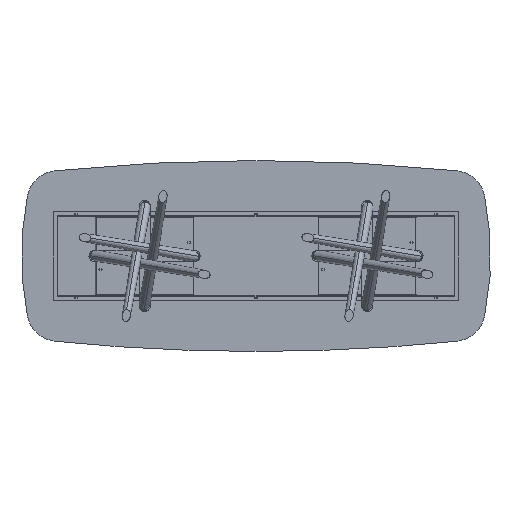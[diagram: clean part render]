
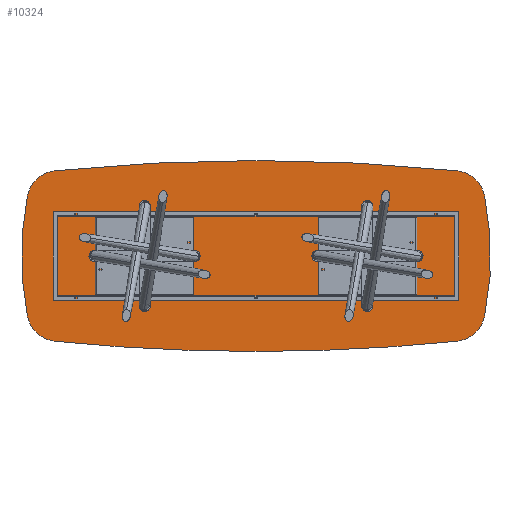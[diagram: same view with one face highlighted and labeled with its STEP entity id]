
A CAD part, front view. The second image highlights one B-rep face of the part: STEP entity #10324.
In plain terms, the highlighted planar face has unit normal (0, -1, 0).
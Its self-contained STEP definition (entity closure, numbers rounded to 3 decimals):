
#43 = DIRECTION ( 'NONE',  ( 0., 0., 1. ) ) ;
#345 = EDGE_CURVE ( 'NONE', #3408, #1984, #1867, .T. ) ;
#350 = AXIS2_PLACEMENT_3D ( 'NONE', #11640, #3685, #3812 ) ;
#446 = VERTEX_POINT ( 'NONE', #8688 ) ;
#484 = CARTESIAN_POINT ( 'NONE',  ( -212.5, 0., 5950. ) ) ;
#705 = ORIENTED_EDGE ( 'NONE', *, *, #7558, .T. ) ;
#808 = CARTESIAN_POINT ( 'NONE',  ( 1241.22, 0., -337.213 ) ) ;
#861 = CIRCLE ( 'NONE', #12214, 1900. ) ;
#1256 = DIRECTION ( 'NONE',  ( 0., 0., 1. ) ) ;
#1267 = DIRECTION ( 'NONE',  ( 0., 0., 1. ) ) ;
#1269 = AXIS2_PLACEMENT_3D ( 'NONE', #8380, #6193, #4230 ) ;
#1867 = CIRCLE ( 'NONE', #8465, 1900. ) ;
#1965 = AXIS2_PLACEMENT_3D ( 'NONE', #4172, #10896, #1267 ) ;
#1984 = VERTEX_POINT ( 'NONE', #4595 ) ;
#2293 = EDGE_CURVE ( 'NONE', #8734, #9448, #861, .T. ) ;
#2354 = AXIS2_PLACEMENT_3D ( 'NONE', #808, #5590, #4804 ) ;
#2461 = EDGE_CURVE ( 'NONE', #5939, #4157, #4368, .T. ) ;
#2638 = DIRECTION ( 'NONE',  ( 0., 0., 1. ) ) ;
#3121 = CARTESIAN_POINT ( 'NONE',  ( 1437.245, 0., 376.885 ) ) ;
#3147 = AXIS2_PLACEMENT_3D ( 'NONE', #12623, #9825, #7001 ) ;
#3270 = DIRECTION ( 'NONE',  ( 0., 1., 0. ) ) ;
#3408 = VERTEX_POINT ( 'NONE', #3121 ) ;
#3561 = EDGE_CURVE ( 'NONE', #8734, #7303, #5004, .T. ) ;
#3663 = CARTESIAN_POINT ( 'NONE',  ( 0., 0., 11900. ) ) ;
#3685 = DIRECTION ( 'NONE',  ( 0., -1., 0. ) ) ;
#3812 = DIRECTION ( 'NONE',  ( 0., 0., 1. ) ) ;
#3857 = CARTESIAN_POINT ( 'NONE',  ( -1241.22, 0., 337.213 ) ) ;
#3966 = CARTESIAN_POINT ( 'NONE',  ( -1437.245, 0., -376.885 ) ) ;
#4157 = VERTEX_POINT ( 'NONE', #12120 ) ;
#4172 = CARTESIAN_POINT ( 'NONE',  ( 0., 0., 11900. ) ) ;
#4230 = DIRECTION ( 'NONE',  ( 0., 0., 1. ) ) ;
#4368 = CIRCLE ( 'NONE', #1269, 12500. ) ;
#4428 = PLANE ( 'NONE',  #8956 ) ;
#4452 = CIRCLE ( 'NONE', #6940, 200. ) ;
#4498 = EDGE_CURVE ( 'NONE', #7515, #446, #8994, .T. ) ;
#4595 = CARTESIAN_POINT ( 'NONE',  ( 1437.245, 0., -376.885 ) ) ;
#4804 = DIRECTION ( 'NONE',  ( 0., 0., 1. ) ) ;
#5004 = CIRCLE ( 'NONE', #3147, 200. ) ;
#5015 = ORIENTED_EDGE ( 'NONE', *, *, #2293, .F. ) ;
#5139 = EDGE_CURVE ( 'NONE', #7515, #1984, #7941, .T. ) ;
#5388 = ORIENTED_EDGE ( 'NONE', *, *, #5139, .T. ) ;
#5590 = DIRECTION ( 'NONE',  ( 0., -1., 0. ) ) ;
#5719 = ORIENTED_EDGE ( 'NONE', *, *, #12177, .F. ) ;
#5939 = VERTEX_POINT ( 'NONE', #8528 ) ;
#6193 = DIRECTION ( 'NONE',  ( 0., 1., 0. ) ) ;
#6251 = FACE_OUTER_BOUND ( 'NONE', #11320, .T. ) ;
#6373 = ORIENTED_EDGE ( 'NONE', *, *, #4498, .F. ) ;
#6767 = AXIS2_PLACEMENT_3D ( 'NONE', #3663, #9412, #11291 ) ;
#6940 = AXIS2_PLACEMENT_3D ( 'NONE', #3857, #10048, #43 ) ;
#7001 = DIRECTION ( 'NONE',  ( 0., 0., 1. ) ) ;
#7208 = DIRECTION ( 'NONE',  ( 0., 1., 0. ) ) ;
#7303 = VERTEX_POINT ( 'NONE', #8879 ) ;
#7515 = VERTEX_POINT ( 'NONE', #11436 ) ;
#7558 = EDGE_CURVE ( 'NONE', #3408, #4157, #9629, .T. ) ;
#7941 = CIRCLE ( 'NONE', #2354, 200. ) ;
#8380 = CARTESIAN_POINT ( 'NONE',  ( 0., 0., -11900. ) ) ;
#8465 = AXIS2_PLACEMENT_3D ( 'NONE', #10336, #7208, #12365 ) ;
#8528 = CARTESIAN_POINT ( 'NONE',  ( -1261.402, 0., 536.192 ) ) ;
#8688 = CARTESIAN_POINT ( 'NONE',  ( 0., 0., -600. ) ) ;
#8734 = VERTEX_POINT ( 'NONE', #3966 ) ;
#8879 = CARTESIAN_POINT ( 'NONE',  ( -1261.402, 0., -536.192 ) ) ;
#8956 = AXIS2_PLACEMENT_3D ( 'NONE', #484, #3270, #1256 ) ;
#8994 = CIRCLE ( 'NONE', #1965, 12500. ) ;
#8995 = ORIENTED_EDGE ( 'NONE', *, *, #3561, .T. ) ;
#9412 = DIRECTION ( 'NONE',  ( 0., 1., 0. ) ) ;
#9448 = VERTEX_POINT ( 'NONE', #9809 ) ;
#9629 = CIRCLE ( 'NONE', #350, 200. ) ;
#9809 = CARTESIAN_POINT ( 'NONE',  ( -1437.245, 0., 376.885 ) ) ;
#9825 = DIRECTION ( 'NONE',  ( 0., -1., 0. ) ) ;
#10048 = DIRECTION ( 'NONE',  ( 0., -1., 0. ) ) ;
#10324 = ADVANCED_FACE ( 'NONE', ( #6251 ), #4428, .F. ) ;
#10336 = CARTESIAN_POINT ( 'NONE',  ( -425., 0., 0. ) ) ;
#10578 = CARTESIAN_POINT ( 'NONE',  ( 425., 0., 0. ) ) ;
#10896 = DIRECTION ( 'NONE',  ( 0., 1., 0. ) ) ;
#11104 = ORIENTED_EDGE ( 'NONE', *, *, #11255, .T. ) ;
#11255 = EDGE_CURVE ( 'NONE', #5939, #9448, #4452, .T. ) ;
#11291 = DIRECTION ( 'NONE',  ( 0., 0., 1. ) ) ;
#11320 = EDGE_LOOP ( 'NONE', ( #12785, #11104, #5015, #8995, #5719, #6373, #5388, #11954, #705 ) ) ;
#11422 = DIRECTION ( 'NONE',  ( 0., 1., 0. ) ) ;
#11436 = CARTESIAN_POINT ( 'NONE',  ( 1261.402, 0., -536.192 ) ) ;
#11640 = CARTESIAN_POINT ( 'NONE',  ( 1241.22, 0., 337.213 ) ) ;
#11954 = ORIENTED_EDGE ( 'NONE', *, *, #345, .F. ) ;
#12120 = CARTESIAN_POINT ( 'NONE',  ( 1261.402, 0., 536.192 ) ) ;
#12177 = EDGE_CURVE ( 'NONE', #446, #7303, #12316, .T. ) ;
#12214 = AXIS2_PLACEMENT_3D ( 'NONE', #10578, #11422, #2638 ) ;
#12316 = CIRCLE ( 'NONE', #6767, 12500. ) ;
#12365 = DIRECTION ( 'NONE',  ( 0., 0., 1. ) ) ;
#12623 = CARTESIAN_POINT ( 'NONE',  ( -1241.22, 0., -337.213 ) ) ;
#12785 = ORIENTED_EDGE ( 'NONE', *, *, #2461, .F. ) ;
